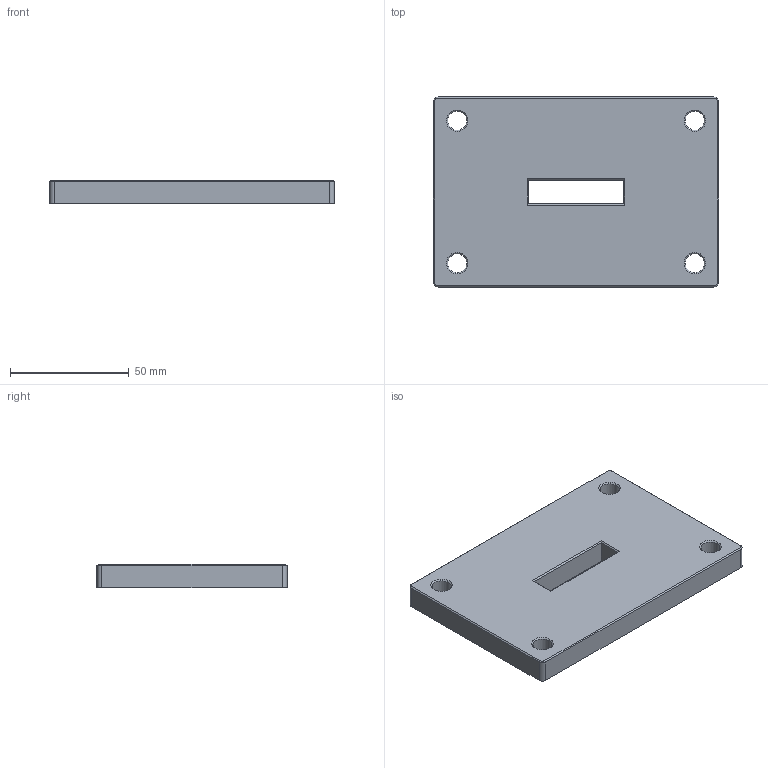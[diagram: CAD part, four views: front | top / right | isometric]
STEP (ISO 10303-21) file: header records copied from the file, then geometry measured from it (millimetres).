
FILE_DESCRIPTION(('Open CASCADE Model'),'2;1');
FILE_NAME('Open CASCADE Shape Model','2026-10-30T15:22:54',('Author'),( 'Open CASCADE'),'Open CASCADE STEP processor 7.9','Open CASCADE 7.9' ,'Unknown');
FILE_SCHEMA(('AUTOMOTIVE_DESIGN { 1 0 10303 214 1 1 1 1 }'));
Length unit declared in the file: millimetre
Products named in the file (2): c74d3e6a-d475-11f1-83fe-1b8c39a1610e; mounting_plate
Assembly tree (1 placements, depth 2):
  c74d3e6a-d475-11f1-83fe-1b8c39a1610e
    mounting_plate
Bounding box: 120 x 80 x 10 mm (x, y, z)
Volume: 89879.8 mm3; surface area: 23788.5 mm2
Topology: 1 solids, 1 shells, 34 faces, 80 edges, 48 vertices
Faces by surface type: plane 18, cylinder 8, cone 8
Full cylindrical faces by diameter (mm): 8 x4
Entity records: 2075 total; most frequent: CARTESIAN_POINT 432, DIRECTION 298, LINE 176, VECTOR 176, ORIENTED_EDGE 160, PCURVE 160, DEFINITIONAL_REPRESENTATION 160, EDGE_CURVE 80
